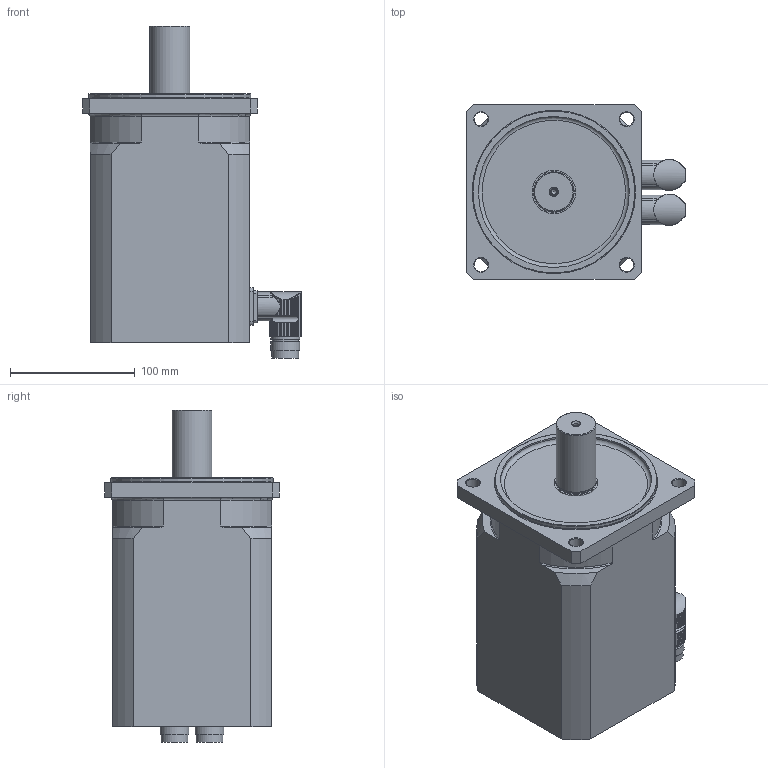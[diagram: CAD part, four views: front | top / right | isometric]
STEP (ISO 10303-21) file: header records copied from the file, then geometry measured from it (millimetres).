
FILE_DESCRIPTION(/* description */ (''),/* implementation_level */ '2;1');
FILE_NAME(/* name */ 'KSY 568 D-R4',/* time_stamp */ '2007-01-03T14:51:57+01:00',/* author */ (''),/* organization */ (''),/* preprocessor_version */ 'ST-DEVELOPER v8',/* originating_system */ 'UNIGRAPHICS SOLUTIONS - UNIGRAPHICS 18.0',/* authorisation */ '');
FILE_SCHEMA (('AUTOMOTIVE_DESIGN { 1 2 10303 214 0 1 1 1 }'));
Length unit declared in the file: millimetre
Products named in the file (3): Winkelflanschdose_0; Rotor_SY5_0; KSY564D-R4_0
Assembly tree (3 placements, depth 2):
  KSY564D-R4_0
    Rotor_SY5_0
    Winkelflanschdose_0  x2
Bounding box: 175.49 x 140 x 266.15 mm (x, y, z)
Volume: 3239910.3 mm3; surface area: 163017.2 mm2
Topology: 4 solids, 4 shells, 410 faces, 1138 edges, 753 vertices
Faces by surface type: cylinder 315, plane 69, cone 13, torus 13
Full cylindrical faces by diameter (mm): 4.351 x1, 5.5 x1, 11 x4, 16 x2, 21 x2, 21.5 x2, 23 x4, 31.52 x1, 32 x1, 35 x1, 121 x1, 130 x1
Entity records: 8139 total; most frequent: CARTESIAN_POINT 2068, ORIENTED_EDGE 1262, DIRECTION 1198, EDGE_CURVE 631, AXIS2_PLACEMENT_3D 481, VERTEX_POINT 433, EDGE_LOOP 295, ADVANCED_FACE 246
